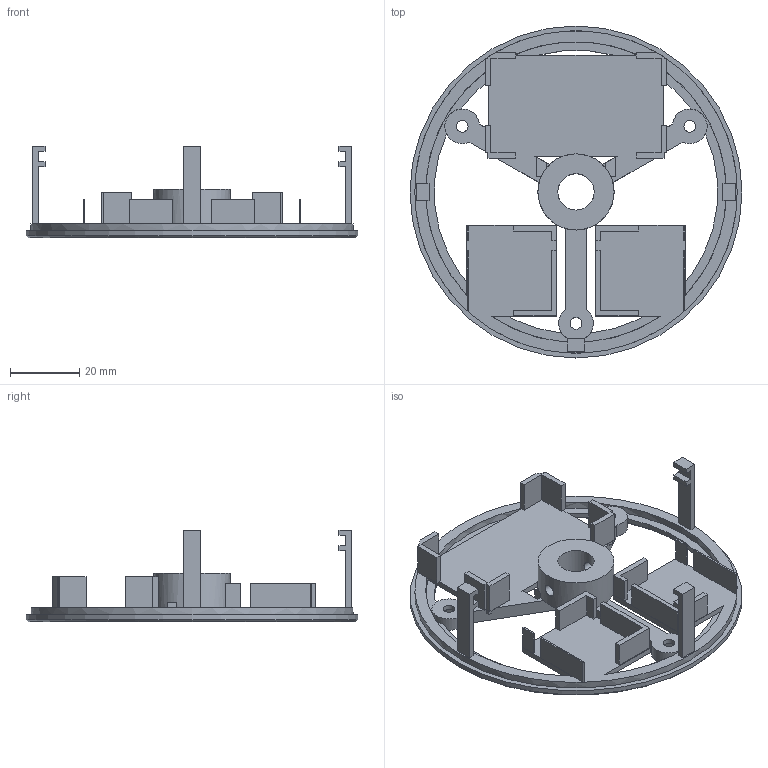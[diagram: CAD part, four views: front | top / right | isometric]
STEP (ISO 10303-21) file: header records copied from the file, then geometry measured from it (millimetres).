
FILE_DESCRIPTION(('Open CASCADE Model'),'2;1');
FILE_NAME('Open CASCADE Shape Model','2026-11-11T19:28:17',('Author'),( 'Open CASCADE'),'Open CASCADE STEP processor 7.9','Open CASCADE 7.9' ,'Unknown');
FILE_SCHEMA(('AUTOMOTIVE_DESIGN { 1 0 10303 214 1 1 1 1 }'));
Length unit declared in the file: millimetre
Products named in the file (1): Open CASCADE STEP translator 7.9 4
Bounding box: 96 x 96 x 26.5 mm (x, y, z)
Volume: 17805.7 mm3; surface area: 20134.8 mm2
Topology: 1 solids, 1 shells, 225 faces, 637 edges, 415 vertices
Faces by surface type: plane 199, cylinder 22, cone 4
Full cylindrical faces by diameter (mm): 3.4 x5, 10.5 x1, 22 x1, 87 x1, 93.2 x1, 96 x1
Entity records: 16281 total; most frequent: CARTESIAN_POINT 3500, DIRECTION 2366, LINE 1713, VECTOR 1713, ORIENTED_EDGE 1274, PCURVE 1274, DEFINITIONAL_REPRESENTATION 1274, EDGE_CURVE 637
